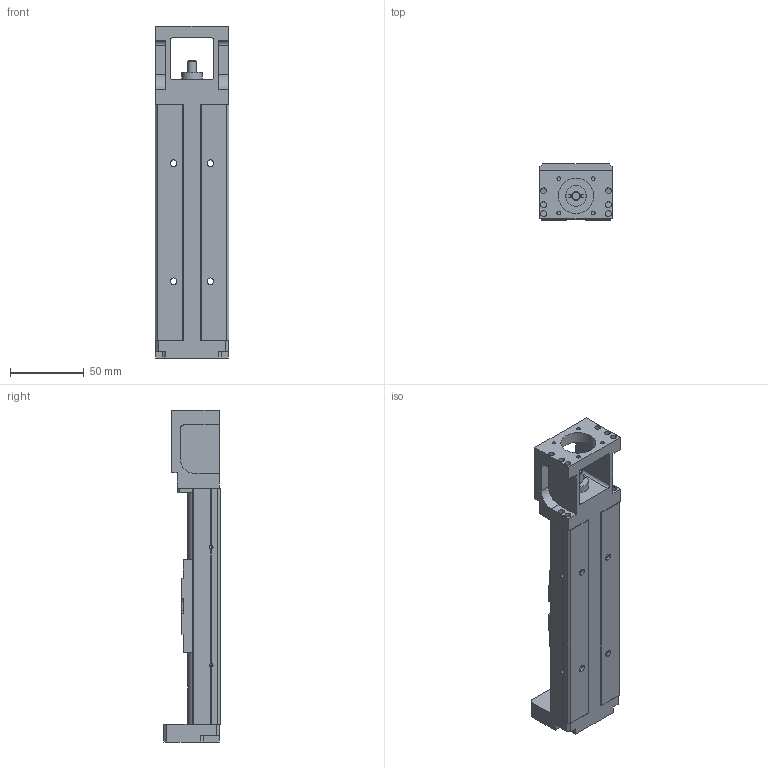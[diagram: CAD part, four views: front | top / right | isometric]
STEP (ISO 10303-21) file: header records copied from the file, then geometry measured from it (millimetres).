
FILE_DESCRIPTION (( 'STEP AP203' ), '1' );
FILE_NAME ('GSX50-50-LL1210-P7.STEP', '2013-11-02T01:40:55', ( '微软用户' ), ( '微软中国' ), 'SwSTEP 2.0', 'SolidWorks 2010', '' );
FILE_SCHEMA (( 'CONFIG_CONTROL_DESIGN' ));
Length unit declared in the file: millimetre
Products named in the file (1): GSX50-50-LL1210-P7
Bounding box: 50 x 38 x 225 mm (x, y, z)
Volume: 183635.2 mm3; surface area: 56968.4 mm2
Topology: 1 solids, 1 shells, 294 faces, 781 edges, 490 vertices
Faces by surface type: cylinder 136, plane 122, cone 36
Entity records: 9116 total; most frequent: CARTESIAN_POINT 1604, DIRECTION 1603, ORIENTED_EDGE 1498, EDGE_CURVE 749, AXIS2_PLACEMENT_3D 575, VERTEX_POINT 490, LINE 453, VECTOR 453
